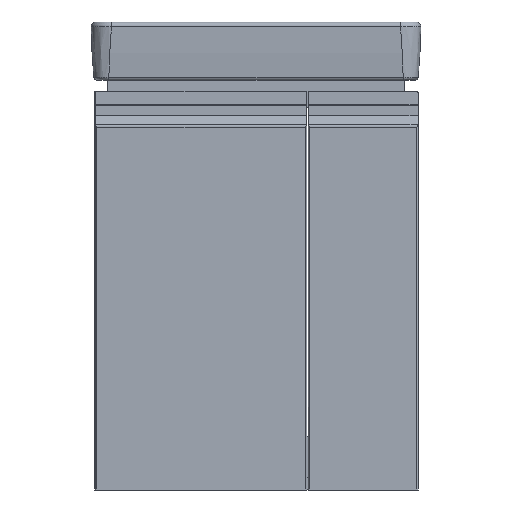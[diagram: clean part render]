
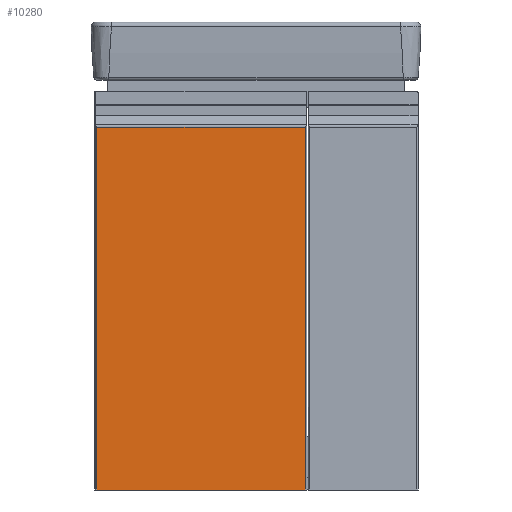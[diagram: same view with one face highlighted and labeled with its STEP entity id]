
A CAD part, front view. The second image highlights one B-rep face of the part: STEP entity #10280.
In plain terms, the highlighted planar face has unit normal (0, -1, 0).
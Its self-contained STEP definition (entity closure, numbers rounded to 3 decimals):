
#1339=PLANE('',#12101);
#1755=LINE('',#95236,#2270);
#1765=LINE('',#95260,#2280);
#1784=LINE('',#96250,#2299);
#1785=LINE('',#96260,#2300);
#2270=VECTOR('',#14082,304.);
#2280=VECTOR('',#14100,528.515);
#2299=VECTOR('',#14163,304.);
#2300=VECTOR('',#14166,528.515);
#2912=FACE_OUTER_BOUND('',#3386,.T.);
#3386=EDGE_LOOP('',(#9582,#9583,#9584,#9585));
#5669=VERTEX_POINT('',#95233);
#5670=VERTEX_POINT('',#95235);
#5680=VERTEX_POINT('',#95259);
#5704=VERTEX_POINT('',#96249);
#7522=EDGE_CURVE('',#5669,#5670,#1755,.T.);
#7534=EDGE_CURVE('',#5669,#5680,#1765,.T.);
#7572=EDGE_CURVE('',#5680,#5704,#1784,.T.);
#7574=EDGE_CURVE('',#5670,#5704,#1785,.T.);
#9582=ORIENTED_EDGE('',*,*,#7574,.F.);
#9583=ORIENTED_EDGE('',*,*,#7522,.F.);
#9584=ORIENTED_EDGE('',*,*,#7534,.T.);
#9585=ORIENTED_EDGE('',*,*,#7572,.T.);
#10280=ADVANCED_FACE('',(#2912),#1339,.F.);
#12101=AXIS2_PLACEMENT_3D('',#96259,#14164,#14165);
#14082=DIRECTION('',(-1.,0.,0.));
#14100=DIRECTION('',(0.,0.,1.));
#14163=DIRECTION('',(-1.,0.,0.));
#14164=DIRECTION('center_axis',(0.,1.,0.));
#14165=DIRECTION('ref_axis',(0.,0.,-1.));
#14166=DIRECTION('',(0.,0.,1.));
#95233=CARTESIAN_POINT('',(5018.679,-274.5,-249.735));
#95235=CARTESIAN_POINT('',(4714.679,-274.5,-249.735));
#95236=CARTESIAN_POINT('',(5018.679,-274.5,-249.735));
#95259=CARTESIAN_POINT('',(5018.679,-274.5,278.779));
#95260=CARTESIAN_POINT('',(5018.679,-274.5,-249.735));
#96249=CARTESIAN_POINT('',(4714.679,-274.5,278.779));
#96250=CARTESIAN_POINT('',(5018.679,-274.5,278.779));
#96259=CARTESIAN_POINT('Origin',(5018.679,-274.5,14.522));
#96260=CARTESIAN_POINT('',(4714.679,-274.5,-249.735));
